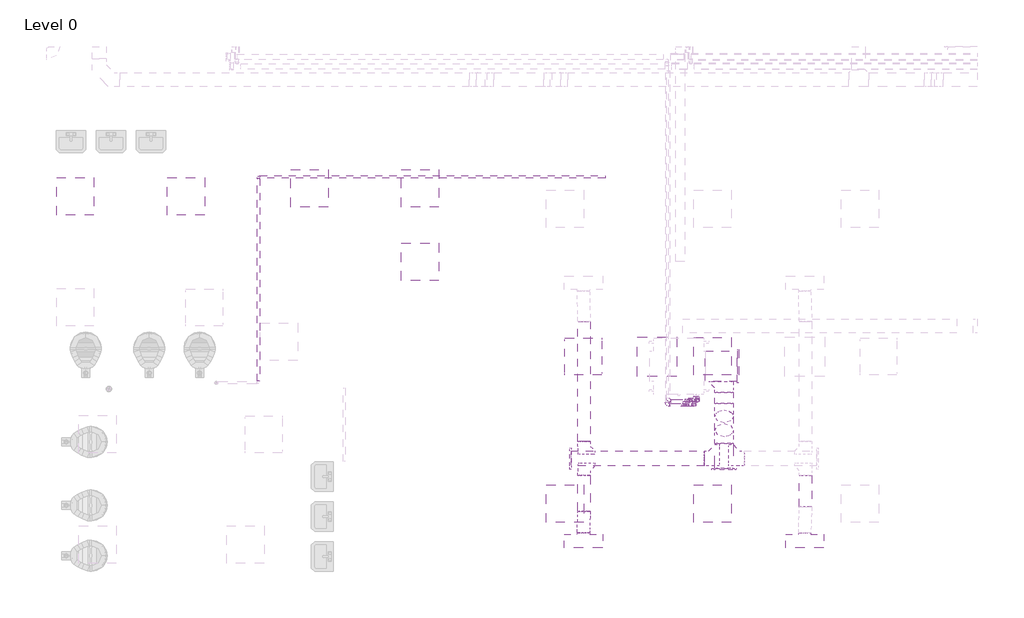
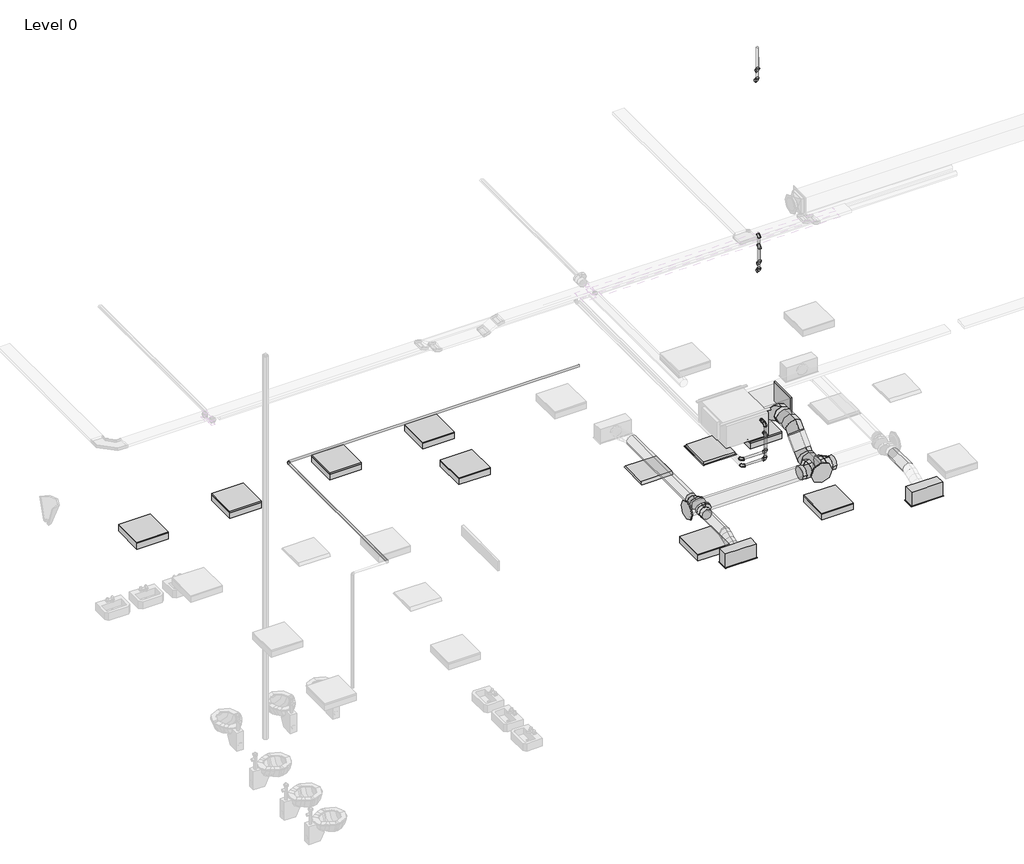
# One storey, part 2 of 34: 15 pipe fittings, 12 pipe segments, 10 duct fittings, 9 duct segments, 9 light fixtures, 3 air terminals.
"""IFC4 building model written with IfcOpenShell, lengths in millimetres."""

from ifc_helpers import new_model, si_unit, point, frame, frame_2d, origin, place, context, project, spatial, polyline, circle_curve, ellipse_curve, trimmed, segment, composite_curve, outline, extrude, transform, mapped, element, save
from ifc_brep_helpers import plane_surface, cylinder_surface, advanced_brep
from components import return_grille_rectangular_hosted_standard_7b12617c, supply_diffuser_with_plenum_linear_slot_hosted_8c379eed, dw144_rectangular_blank_end_standard_8fde7d16, dw144_round_blank_end_standard_f82b0856, dw144_round_blank_end_standard_9aa061e7, dw144_round_segmented_bend_slip_joint_standard_8b80c5ae, dw144_round_shoe_branch_slip_joint1_standard_2_15a2edd8, dw144_round_shoe_branch_slip_joint1_standard_2_7ba9e4ed, dw144_round_shoe_branch_slip_joint1_standard_2_67b64720, light_fixture_b730b5ca, troffer_light_2x2_parabolic_2_x2_2_lamp_120v_6a063ff3, elbow_generic_standard_371413ad, elbow_threaded_gmi_standard_b4aa7741, socket_reducing_threaded_gmi_standard_0a4076b8

model = new_model("IFC4")

# Units and contexts
model_context = context("Model", 3, world=origin())
ifc_project = project(units=[si_unit("LENGTHUNIT", "METRE", prefix="MILLI")], contexts=[model_context])

# Site, building, storey
site = spatial("IfcSite", under=ifc_project)
building = spatial("IfcBuilding", under=site)
storey = spatial("IfcBuildingStorey", under=building, Name="Level 0", Elevation=0.0)

# Air terminals
placement = place(None, origin())
return_grille_rectangular_hosted_standard_shape = return_grille_rectangular_hosted_standard_7b12617c(model_context)
element("IfcAirTerminal", 1, ObjectType="Return Grille - Rectangular - Hosted : Standard", at=placement, inside=storey, context=model_context, shape_type="MappedRepresentation", body=[
    mapped(return_grille_rectangular_hosted_standard_shape, transform((10362.2000027, 3963.2000004, 2800.0), x_axis=(1.0, 0.0, 0.0), y_axis=(0.0, -1.0, 0.0), z_axis=(0.0, 0.0, -1.0))),
])
supply_diffuser_with_plenum_linear_slot_hosted_shape = supply_diffuser_with_plenum_linear_slot_hosted_8c379eed(model_context)
element("IfcAirTerminal", 2, ObjectType="Supply Diffuser with Plenum - Linear Slot - Hosted : 24\" x 8\"-200 In Inlet  4-Slot", at=placement, inside=storey, context=model_context, shape_type="MappedRepresentation", body=[
    mapped(supply_diffuser_with_plenum_linear_slot_hosted_shape, transform((9162.2000027, 963.2000004, 2800.0), x_axis=(1.0, 0.0, 0.0), y_axis=(0.0, -1.0, 0.0), z_axis=(0.0, 0.0, -1.0))),
])
element("IfcAirTerminal", 3, ObjectType="Supply Diffuser with Plenum - Linear Slot - Hosted : 24\" x 8\"-200 In Inlet  4-Slot", at=placement, inside=storey, context=model_context, shape_type="MappedRepresentation", body=[
    mapped(supply_diffuser_with_plenum_linear_slot_hosted_shape, transform((12762.2000027, 963.2000004, 2800.0), x_axis=(1.0, 0.0, 0.0), y_axis=(0.0, -1.0, 0.0), z_axis=(0.0, 0.0, -1.0))),
])

# Duct fittings
dw144_rectangular_blank_end_standard_shape = dw144_rectangular_blank_end_standard_8fde7d16(model_context)
element("IfcDuctFitting", 4, ObjectType="DW144 Rectangular Blank End : Standard", at=placement, inside=storey, context=model_context, shape_type="MappedRepresentation", body=[
    mapped(dw144_rectangular_blank_end_standard_shape, transform((11666.2561025, 3806.0000004, 3476.3911538), x_axis=(1.0, 0.0, 0.0), y_axis=(0.0, 1.0, 0.0), z_axis=(0.0, 0.0, 1.0))),
])
dw144_round_blank_end_standard_shape = dw144_round_blank_end_standard_f82b0856(model_context)
element("IfcDuctFitting", 5, ObjectType="DW144 Round Blank End : Standard", at=placement, inside=storey, context=model_context, shape_type="MappedRepresentation", body=[
    mapped(dw144_round_blank_end_standard_shape, transform((11451.4561025, 2142.9916128, 3072.2088531), x_axis=(0.0, -1.0, 0.0), y_axis=(1.0, 0.0, 0.0), z_axis=(0.0, 0.0, 1.0))),
])
dw144_round_blank_end_standard_2_shape = dw144_round_blank_end_standard_9aa061e7(model_context)
element("IfcDuctFitting", 6, ObjectType="DW144 Round Blank End : Standard", at=placement, inside=storey, context=model_context, shape_type="MappedRepresentation", body=[
    mapped(dw144_round_blank_end_standard_2_shape, transform((8961.4561025, 2306.5018192, 3072.2088531), x_axis=(-1.0, 0.0, 0.0), y_axis=(0.0, -1.0, 0.0), z_axis=(0.0, 0.0, 1.0))),
])
dw144_round_segmented_bend_slip_joint_standard_shape = dw144_round_segmented_bend_slip_joint_standard_8b80c5ae(model_context)
element("IfcDuctFitting", 7, ObjectType="DW144 Round Segmented Bend - Slip Joint : Standard", at=placement, inside=storey, context=model_context, shape_type="MappedRepresentation", body=[
    mapped(dw144_round_segmented_bend_slip_joint_standard_shape, transform((11451.4561025, 2678.6338536, 3072.2088531), x_axis=(0.0, -0.7071067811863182, -0.7071067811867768), y_axis=(0.0, 0.7071067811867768, -0.7071067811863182), z_axis=(1.0, 0.0, 0.0))),
])
element("IfcDuctFitting", 8, ObjectType="DW144 Round Segmented Bend - Slip Joint : Standard", at=placement, inside=storey, context=model_context, shape_type="MappedRepresentation", body=[
    mapped(dw144_round_segmented_bend_slip_joint_standard_shape, transform((11451.4561025, 3076.0000004, 3469.575), x_axis=(0.0, -1.0, 0.0), y_axis=(0.0, 0.0, 1.0), z_axis=(-1.0, 0.0, 0.0))),
])
dw144_round_shoe_branch_slip_joint1_standard_2_shape = dw144_round_shoe_branch_slip_joint1_standard_2_15a2edd8(model_context)
element("IfcDuctFitting", 9, ObjectType="DW144 Round Shoe Branch - Slip Joint1 : Standard 2", at=placement, inside=storey, context=model_context, shape_type="MappedRepresentation", body=[
    mapped(dw144_round_shoe_branch_slip_joint1_standard_2_shape, transform((9173.9000022, 2181.5018192, 3072.2088531), x_axis=(0.0, -1.0, 0.0), y_axis=(-1.0, 0.0, 0.0), z_axis=(0.0, 0.0, -1.0))),
])
element("IfcDuctFitting", 10, ObjectType="DW144 Round Shoe Branch - Slip Joint1 : Standard 2", at=placement, inside=storey, context=model_context, shape_type="MappedRepresentation", body=[
    mapped(dw144_round_shoe_branch_slip_joint1_standard_2_shape, transform((9173.9000022, 2431.5018192, 3072.2088531), x_axis=(0.0, 1.0, 0.0), y_axis=(-1.0, 0.0, 0.0), z_axis=(0.0, 0.0, 1.0))),
])
dw144_round_shoe_branch_slip_joint1_standard_2_2_shape = dw144_round_shoe_branch_slip_joint1_standard_2_7ba9e4ed(model_context)
element("IfcDuctFitting", 11, ObjectType="DW144 Round Shoe Branch - Slip Joint1 : Standard 2", at=placement, inside=storey, context=model_context, shape_type="MappedRepresentation", body=[
    mapped(dw144_round_shoe_branch_slip_joint1_standard_2_2_shape, transform((11451.4561025, 3556.0000004, 3469.575), x_axis=(0.0, -1.0, 0.0), y_axis=(-1.0, 0.0, 0.0), z_axis=(0.0, 0.0, -1.0))),
])
dw144_round_shoe_branch_slip_joint1_standard_2_3_shape = dw144_round_shoe_branch_slip_joint1_standard_2_67b64720(model_context)
element("IfcDuctFitting", 12, ObjectType="DW144 Round Shoe Branch - Slip Joint1 : Standard 2", at=placement, inside=storey, context=model_context, shape_type="MappedRepresentation", body=[
    mapped(dw144_round_shoe_branch_slip_joint1_standard_2_3_shape, transform((11601.4561025, 2306.5018192, 3072.2088531), x_axis=(1.0, 0.0, 0.0), y_axis=(0.0, -1.0, 0.0), z_axis=(0.0, 0.0, -1.0))),
])
element("IfcDuctFitting", 13, ObjectType="DW144 Round Shoe Branch - Slip Joint1 : Standard 2", at=placement, inside=storey, context=model_context, shape_type="MappedRepresentation", body=[
    mapped(dw144_round_shoe_branch_slip_joint1_standard_2_3_shape, transform((11301.4561025, 2306.5018192, 3072.2088531), x_axis=(-1.0, 0.0, 0.0), y_axis=(0.0, -1.0, 0.0), z_axis=(0.0, 0.0, 1.0))),
])

# Duct segments
element("IfcDuctSegment", 14, ObjectType="DW144 Flanged Med Radius Bend / Shoe Branch", at=placement, inside=storey, context=model_context, shape_type="SweptSolid", body=[
    extrude(outline(polyline([(11146.6561025, 3556.0000004), (11146.6561025, 4056.0000004), (11666.2561025, 4056.0000004), (11666.2561025, 3556.0000004), (11146.6561025, 3556.0000004)])), frame((0.0, 0.0, 3301.3911538), z_axis=(0.0, 0.0, 1.0), x_axis=(1.0, 0.0, 0.0)), (0.0, 0.0, 1.0), 350.0),
])
element("IfcDuctSegment", 15, ObjectType="DW144 Segmented Bend / Shoe Branch", at=placement, inside=storey, context=model_context, shape_type="SweptSolid", body=[
    extrude(outline(composite_curve([segment(trimmed(circle_curve(frame_2d((3469.575, 11451.4561025)), 150.0), [point((3469.575, 11301.4561025))], [point((3319.575, 11451.4561025))], False, "CARTESIAN"), True, "CONTINUOUS"), segment(trimmed(circle_curve(frame_2d((3469.575, 11451.4561025)), 150.0), [point((3319.575, 11451.4561025))], [point((3469.575, 11601.4561025))], False, "CARTESIAN"), True, "CONTINUOUS"), segment(trimmed(circle_curve(frame_2d((3469.575, 11451.4561025)), 150.0), [point((3469.575, 11601.4561025))], [point((3619.575, 11451.4561025))], False, "CARTESIAN"), True, "CONTINUOUS"), segment(trimmed(circle_curve(frame_2d((3469.575, 11451.4561025)), 150.0), [point((3619.575, 11451.4561025))], [point((3469.575, 11301.4561025))], False, "CARTESIAN"), True, "CONTINUOUS")], self_intersect=False)), frame((0.0, 3200.2640691, 0.0), z_axis=(0.0, 1.0, 0.0), x_axis=(0.0, 0.0, 1.0)), (0.0, 0.0, 1.0), 180.7359313),
])
element("IfcDuctSegment", 16, ObjectType="DW144 Segmented Bend / Shoe Branch", at=placement, inside=storey, context=model_context, shape_type="SweptSolid", body=[
    extrude(outline(composite_curve([segment(trimmed(circle_curve(frame_2d((3072.2088531, 11451.4561025)), 150.0), [point((3072.2088531, 11301.4561025))], [point((2922.2088531, 11451.4561025))], False, "CARTESIAN"), True, "CONTINUOUS"), segment(trimmed(circle_curve(frame_2d((3072.2088531, 11451.4561025)), 150.0), [point((2922.2088531, 11451.4561025))], [point((3072.2088531, 11601.4561025))], False, "CARTESIAN"), True, "CONTINUOUS"), segment(trimmed(circle_curve(frame_2d((3072.2088531, 11451.4561025)), 150.0), [point((3072.2088531, 11601.4561025))], [point((3222.2088531, 11451.4561025))], False, "CARTESIAN"), True, "CONTINUOUS"), segment(trimmed(circle_curve(frame_2d((3072.2088531, 11451.4561025)), 150.0), [point((3222.2088531, 11451.4561025))], [point((3072.2088531, 11301.4561025))], False, "CARTESIAN"), True, "CONTINUOUS")], self_intersect=False)), frame((0.0, 2142.9916128, 0.0), z_axis=(0.0, 1.0, 0.0), x_axis=(0.0, 0.0, 1.0)), (0.0, 0.0, 1.0), 411.3781721),
])
element("IfcDuctSegment", 17, ObjectType="DW144 Segmented Bend / Shoe Branch", at=placement, inside=storey, context=model_context, shape_type="SweptSolid", body=[
    extrude(outline(composite_curve([segment(trimmed(circle_curve(frame_2d((0.0, -150.0)), 150.0), [point((-150.0, -150.0))], [point((0.0, 0.0))], False, "CARTESIAN"), True, "CONTINUOUS"), segment(trimmed(circle_curve(frame_2d((0.0, -150.0)), 150.0), [point((0.0, 0.0))], [point((150.0, -150.0))], False, "CARTESIAN"), True, "CONTINUOUS"), segment(trimmed(circle_curve(frame_2d((0.0, -150.0)), 150.0), [point((150.0, -150.0))], [point((0.0, -300.0))], False, "CARTESIAN"), True, "CONTINUOUS"), segment(trimmed(circle_curve(frame_2d((0.0, -150.0)), 150.0), [point((0.0, -300.0))], [point((-150.0, -150.0))], False, "CARTESIAN"), True, "CONTINUOUS")], self_intersect=False)), frame((11451.4561025, 2872.5678364, 3054.0108016), z_axis=(0.0, 0.7071067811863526, 0.7071067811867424), x_axis=(1.0, 0.0, 0.0)), (0.0, 0.0, 1.0), 313.4324567),
])
element("IfcDuctSegment", 18, ObjectType="DW144 Segmented Bend / Shoe Branch", at=placement, inside=storey, context=model_context, shape_type="SweptSolid", body=[
    extrude(outline(composite_curve([segment(trimmed(circle_curve(frame_2d((2306.5018192, 3072.2088531)), 125.0), [point((2431.5018192, 3072.2088531))], [point((2306.5018192, 2947.2088531))], False, "CARTESIAN"), True, "CONTINUOUS"), segment(trimmed(circle_curve(frame_2d((2306.5018192, 3072.2088531)), 125.0), [point((2306.5018192, 2947.2088531))], [point((2181.5018192, 3072.2088531))], False, "CARTESIAN"), True, "CONTINUOUS"), segment(trimmed(circle_curve(frame_2d((2306.5018192, 3072.2088531)), 125.0), [point((2181.5018192, 3072.2088531))], [point((2306.5018192, 3197.2088531))], False, "CARTESIAN"), True, "CONTINUOUS"), segment(trimmed(circle_curve(frame_2d((2306.5018192, 3072.2088531)), 125.0), [point((2306.5018192, 3197.2088531))], [point((2431.5018192, 3072.2088531))], False, "CARTESIAN"), True, "CONTINUOUS")], self_intersect=False)), frame((8961.4561025, 0.0, 0.0), z_axis=(1.0, 0.0, 0.0), x_axis=(0.0, 1.0, 0.0)), (0.0, 0.0, 1.0), 2165.0),
])
element("IfcDuctSegment", 19, ObjectType="DW144 Segmented Bend / Shoe Branch", at=placement, inside=storey, context=model_context, shape_type="SweptSolid", body=[
    extrude(outline(composite_curve([segment(trimmed(circle_curve(frame_2d((3072.2088531, 12773.9000022)), 100.0), [point((3072.2088531, 12673.9000022))], [point((2972.2088531, 12773.9000022))], False, "CARTESIAN"), True, "CONTINUOUS"), segment(trimmed(circle_curve(frame_2d((3072.2088531, 12773.9000022)), 100.0), [point((2972.2088531, 12773.9000022))], [point((3072.2088531, 12873.9000022))], False, "CARTESIAN"), True, "CONTINUOUS"), segment(trimmed(circle_curve(frame_2d((3072.2088531, 12773.9000022)), 100.0), [point((3072.2088531, 12873.9000022))], [point((3172.2088531, 12773.9000022))], False, "CARTESIAN"), True, "CONTINUOUS"), segment(trimmed(circle_curve(frame_2d((3072.2088531, 12773.9000022)), 100.0), [point((3172.2088531, 12773.9000022))], [point((3072.2088531, 12673.9000022))], False, "CARTESIAN"), True, "CONTINUOUS")], self_intersect=False)), frame((0.0, 1521.5018192, 0.0), z_axis=(0.0, 1.0, 0.0), x_axis=(0.0, 0.0, 1.0)), (0.0, 0.0, 1.0), 510.0),
])
element("IfcDuctSegment", 20, ObjectType="DW144 Segmented Bend / Shoe Branch", at=placement, inside=storey, context=model_context, shape_type="SweptSolid", body=[
    extrude(outline(composite_curve([segment(trimmed(circle_curve(frame_2d((3072.2088531, 9173.9000022)), 100.0), [point((3072.2088531, 9273.9000022))], [point((3172.2088531, 9173.9000022))], False, "CARTESIAN"), True, "CONTINUOUS"), segment(trimmed(circle_curve(frame_2d((3072.2088531, 9173.9000022)), 100.0), [point((3172.2088531, 9173.9000022))], [point((3072.2088531, 9073.9000022))], False, "CARTESIAN"), True, "CONTINUOUS"), segment(trimmed(circle_curve(frame_2d((3072.2088531, 9173.9000022)), 100.0), [point((3072.2088531, 9073.9000022))], [point((2972.2088531, 9173.9000022))], False, "CARTESIAN"), True, "CONTINUOUS"), segment(trimmed(circle_curve(frame_2d((3072.2088531, 9173.9000022)), 100.0), [point((2972.2088531, 9173.9000022))], [point((3072.2088531, 9273.9000022))], False, "CARTESIAN"), True, "CONTINUOUS")], self_intersect=False)), frame((0.0, 1441.5018192, 0.0), z_axis=(0.0, 1.0, 0.0), x_axis=(0.0, 0.0, 1.0)), (0.0, 0.0, 1.0), 590.0),
])
element("IfcDuctSegment", 21, ObjectType="DW144 Segmented Bend / Shoe Branch", at=placement, inside=storey, context=model_context, shape_type="SweptSolid", body=[
    extrude(outline(composite_curve([segment(trimmed(circle_curve(frame_2d((3072.2088531, 9173.9000022)), 100.0), [point((3072.2088531, 9273.9000022))], [point((3172.2088531, 9173.9000022))], False, "CARTESIAN"), True, "CONTINUOUS"), segment(trimmed(circle_curve(frame_2d((3072.2088531, 9173.9000022)), 100.0), [point((3172.2088531, 9173.9000022))], [point((3072.2088531, 9073.9000022))], False, "CARTESIAN"), True, "CONTINUOUS"), segment(trimmed(circle_curve(frame_2d((3072.2088531, 9173.9000022)), 100.0), [point((3072.2088531, 9073.9000022))], [point((2972.2088531, 9173.9000022))], False, "CARTESIAN"), True, "CONTINUOUS"), segment(trimmed(circle_curve(frame_2d((3072.2088531, 9173.9000022)), 100.0), [point((2972.2088531, 9173.9000022))], [point((3072.2088531, 9273.9000022))], False, "CARTESIAN"), True, "CONTINUOUS")], self_intersect=False)), frame((0.0, 2581.5018192, 0.0), z_axis=(0.0, 1.0, 0.0), x_axis=(0.0, 0.0, 1.0)), (0.0, 0.0, 1.0), 1950.0),
])
element("IfcDuctSegment", 22, ObjectType="Flex - Round", at=placement, inside=storey, context=model_context, shape_type="AdvancedBrep", body=[
    advanced_brep(
    [(9273.9000022, 1441.5018192, 3072.2088531), (9173.9000022, 1441.5018192, 2972.2088531), (9073.9000022, 1441.5018192, 3072.2088531), (9173.9000022, 1441.5018192, 3172.2088531), (9273.9000022, 1419.9886644, 3072.2088531), (9173.9000022, 1434.4041273, 2972.2088531), (9073.9000022, 1422.5932881, 3072.2088531), (9173.9000022, 1408.1778252, 3172.2088531), (9262.2000027, 1092.1000004, 2954.4), (9162.2000027, 1092.1000004, 3054.4), (9062.2000027, 1092.1000004, 2954.4), (9162.2000027, 1092.1000004, 2854.4), (9272.0154345, 1348.8904029, 3053.2328893), (9172.6402079, 1386.8764181, 2959.5238159), (9072.1283201, 1355.7538157, 3054.3695504), (9171.5035467, 1317.7678004, 3148.0786237), (9267.9552415, 1262.5544078, 3012.3502664), (9169.0041626, 1309.5595036, 2922.9119919), (9068.1447633, 1271.0474118, 3014.2585867), (9167.0958423, 1224.0423161, 3103.6968612), (9263.9716847, 1177.8480039, 2972.2393027), (9164.5964582, 1215.8340192, 2878.5302294), (9064.0845704, 1184.7114168, 2973.3759639), (9163.459797, 1146.7254015, 3067.0850372), (9262.2000027, 1111.0085316, 2954.4), (9162.2000027, 1125.4239944, 2854.4), (9062.2000027, 1113.6131552, 2954.4), (9162.2000027, 1099.1976924, 3054.4)],
    [
        (0, 1, circle_curve(frame((9173.9000022, 1441.5018192, 3072.2088531), z_axis=(0.0, 1.0, 0.0), x_axis=(1.0, 0.0, 0.0)), 100.0)),
        (1, 2, circle_curve(frame((9173.9000022, 1441.5018192, 3072.2088531), z_axis=(0.0, 1.0, 0.0), x_axis=(1.0, 0.0, 0.0)), 100.0)),
        (2, 3, circle_curve(frame((9173.9000022, 1441.5018192, 3072.2088531), z_axis=(0.0, 1.0, 0.0), x_axis=(1.0, 0.0, 0.0)), 100.0)),
        (3, 0, circle_curve(frame((9173.9000022, 1441.5018192, 3072.2088531), z_axis=(0.0, 1.0, 0.0), x_axis=(1.0, 0.0, 0.0)), 100.0)),
        (0, 4),
        (4, 5, ellipse_curve(frame((9173.9000022, 1421.2909763, 3072.2088531), z_axis=(0.012911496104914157, 0.9914289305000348, 0.13000757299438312), x_axis=(-0.0979801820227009, 0.13064714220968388, -0.9865754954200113)), 100.8645168, 100.0)),
        (5, 1),
        (5, 6, ellipse_curve(frame((9173.9000022, 1421.2909763, 3072.2088531), z_axis=(0.012911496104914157, 0.9914289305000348, 0.13000757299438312), x_axis=(-0.0979801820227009, 0.13064714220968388, -0.9865754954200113)), 100.8645168, 100.0)),
        (6, 2),
        (6, 7, ellipse_curve(frame((9173.9000022, 1421.2909763, 3072.2088531), z_axis=(0.012911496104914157, 0.9914289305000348, 0.13000757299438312), x_axis=(-0.0979801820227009, 0.13064714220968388, -0.9865754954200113)), 100.8645168, 100.0)),
        (7, 3),
        (7, 4, ellipse_curve(frame((9173.9000022, 1421.2909763, 3072.2088531), z_axis=(0.012911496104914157, 0.9914289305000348, 0.13000757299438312), x_axis=(-0.0979801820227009, 0.13064714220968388, -0.9865754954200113)), 100.8645168, 100.0)),
        (8, 9, circle_curve(frame((9162.2000027, 1092.1000004, 2954.4), z_axis=(0.0, -1.0, 0.0), x_axis=(1.0, 0.0, 0.0)), 100.0)),
        (9, 10, circle_curve(frame((9162.2000027, 1092.1000004, 2954.4), z_axis=(0.0, -1.0, 0.0), x_axis=(1.0, 0.0, 0.0)), 100.0)),
        (10, 11, circle_curve(frame((9162.2000027, 1092.1000004, 2954.4), z_axis=(0.0, -1.0, 0.0), x_axis=(1.0, 0.0, 0.0)), 100.0)),
        (11, 8, circle_curve(frame((9162.2000027, 1092.1000004, 2954.4), z_axis=(0.0, -1.0, 0.0), x_axis=(1.0, 0.0, 0.0)), 100.0)),
        (4, 12),
        (12, 13, ellipse_curve(frame((9172.0718773, 1352.3221093, 3053.8012198), z_axis=(0.03417490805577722, 0.9383065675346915, 0.34411169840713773), x_axis=(-0.0927302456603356, 0.3458045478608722, -0.9337131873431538)), 100.4159667, 100.0)),
        (13, 5),
        (13, 14, ellipse_curve(frame((9172.0718773, 1352.3221093, 3053.8012198), z_axis=(0.03417490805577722, 0.9383065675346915, 0.34411169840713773), x_axis=(-0.0927302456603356, 0.3458045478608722, -0.9337131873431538)), 100.4159667, 100.0)),
        (14, 6),
        (14, 15, ellipse_curve(frame((9172.0718773, 1352.3221093, 3053.8012198), z_axis=(0.03417490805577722, 0.9383065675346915, 0.34411169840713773), x_axis=(-0.0927302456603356, 0.3458045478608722, -0.9337131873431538)), 100.4159667, 100.0)),
        (15, 7),
        (15, 12, ellipse_curve(frame((9172.0718773, 1352.3221093, 3053.8012198), z_axis=(0.03417490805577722, 0.9383065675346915, 0.34411169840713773), x_axis=(-0.0927302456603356, 0.3458045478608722, -0.9337131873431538)), 100.4159667, 100.0)),
        (12, 16),
        (16, 17, circle_curve(frame((9168.0500024, 1266.8009098, 3013.3044266), z_axis=(0.04246501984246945, 0.9029767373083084, 0.4275859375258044), x_axis=(0.9990523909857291, -0.04246501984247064, -0.009541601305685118)), 100.0)),
        (17, 13),
        (17, 18, circle_curve(frame((9168.0500024, 1266.8009098, 3013.3044266), z_axis=(0.04246501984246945, 0.9029767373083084, 0.4275859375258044), x_axis=(0.9990523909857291, -0.04246501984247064, -0.009541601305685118)), 100.0)),
        (18, 14),
        (18, 19, circle_curve(frame((9168.0500024, 1266.8009098, 3013.3044266), z_axis=(0.04246501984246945, 0.9029767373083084, 0.4275859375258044), x_axis=(0.9990523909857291, -0.04246501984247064, -0.009541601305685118)), 100.0)),
        (19, 15),
        (19, 16, circle_curve(frame((9168.0500024, 1266.8009098, 3013.3044266), z_axis=(0.04246501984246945, 0.9029767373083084, 0.4275859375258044), x_axis=(0.9990523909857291, -0.04246501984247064, -0.009541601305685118)), 100.0)),
        (16, 20),
        (20, 21, ellipse_curve(frame((9164.0281276, 1181.2797104, 2972.8076333), z_axis=(0.034174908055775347, 0.9383065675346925, 0.3441116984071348), x_axis=(0.09273024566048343, -0.34580454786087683, 0.9337131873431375)), 100.4159667, 100.0)),
        (21, 17),
        (21, 22, ellipse_curve(frame((9164.0281276, 1181.2797104, 2972.8076333), z_axis=(0.034174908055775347, 0.9383065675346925, 0.3441116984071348), x_axis=(0.09273024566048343, -0.34580454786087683, 0.9337131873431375)), 100.4159667, 100.0)),
        (22, 18),
        (22, 23, ellipse_curve(frame((9164.0281276, 1181.2797104, 2972.8076333), z_axis=(0.034174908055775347, 0.9383065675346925, 0.3441116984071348), x_axis=(0.09273024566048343, -0.34580454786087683, 0.9337131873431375)), 100.4159667, 100.0)),
        (23, 19),
        (23, 20, ellipse_curve(frame((9164.0281276, 1181.2797104, 2972.8076333), z_axis=(0.034174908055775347, 0.9383065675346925, 0.3441116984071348), x_axis=(0.09273024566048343, -0.34580454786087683, 0.9337131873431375)), 100.4159667, 100.0)),
        (20, 24),
        (24, 25, ellipse_curve(frame((9162.2000027, 1112.3108434, 2954.4), z_axis=(0.012911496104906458, 0.9914289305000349, 0.1300075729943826), x_axis=(0.09798018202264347, -0.13064714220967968, 0.9865754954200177)), 100.8645168, 100.0)),
        (25, 21),
        (25, 26, ellipse_curve(frame((9162.2000027, 1112.3108434, 2954.4), z_axis=(0.012911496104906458, 0.9914289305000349, 0.1300075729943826), x_axis=(0.09798018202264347, -0.13064714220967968, 0.9865754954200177)), 100.8645168, 100.0)),
        (26, 22),
        (26, 27, ellipse_curve(frame((9162.2000027, 1112.3108434, 2954.4), z_axis=(0.012911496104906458, 0.9914289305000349, 0.1300075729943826), x_axis=(0.09798018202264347, -0.13064714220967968, 0.9865754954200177)), 100.8645168, 100.0)),
        (27, 23),
        (27, 24, ellipse_curve(frame((9162.2000027, 1112.3108434, 2954.4), z_axis=(0.012911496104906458, 0.9914289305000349, 0.1300075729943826), x_axis=(0.09798018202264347, -0.13064714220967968, 0.9865754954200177)), 100.8645168, 100.0)),
        (24, 8),
        (11, 25),
        (10, 26),
        (9, 27),
    ],
    [
        plane_surface(frame((9073.9000022, 1441.5018192, 3072.2088531), z_axis=(0.0, 1.0, 0.0), x_axis=(0.0, 0.0, -1.0))),
        cylinder_surface(frame((9173.9000022, 1441.5018192, 3072.2088531), z_axis=(0.0, 1.0, 0.0), x_axis=(1.0, 0.0, 0.0)), 100.0),
        plane_surface(frame((9062.2000027, 1092.1000004, 2954.4), z_axis=(0.0, -1.0, 0.0), x_axis=(0.0, 0.0, -1.0))),
        cylinder_surface(frame((9173.9000022, 1421.2909763, 3072.2088531), z_axis=(0.02560166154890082, 0.965862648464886, 0.25778653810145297), x_axis=(0.9996665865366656, -0.02560166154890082, -0.003357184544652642)), 100.0),
        cylinder_surface(frame((9172.0718773, 1352.3221093, 3053.8012198), z_axis=(0.04246501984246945, 0.9029767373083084, 0.4275859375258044), x_axis=(0.9990523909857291, -0.04246501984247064, -0.009541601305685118)), 100.0),
        cylinder_surface(frame((9168.0500024, 1266.8009098, 3013.3044266), z_axis=(0.04246501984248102, 0.90297673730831, 0.4275859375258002), x_axis=(0.9990523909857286, -0.042465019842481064, -0.00954160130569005)), 100.0),
        cylinder_surface(frame((9164.0281276, 1181.2797104, 2972.8076333), z_axis=(0.02560166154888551, 0.9658626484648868, 0.2577865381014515), x_axis=(0.999666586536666, -0.025601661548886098, -0.0033571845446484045)), 100.0),
        cylinder_surface(frame((9162.2000027, 1112.3108434, 2954.4), z_axis=(0.0, 1.0, 0.0), x_axis=(1.0, 0.0, 0.0)), 100.0),
    ],
    [
        (0, [[1, 2, 3, 4]]),
        (1, [[-1, 5, 6, 7]]),
        (1, [[-2, -7, 8, 9]]),
        (1, [[-3, -9, 10, 11]]),
        (1, [[-4, -11, 12, -5]]),
        (2, [[13, 14, 15, 16]]),
        (3, [[-6, 17, 18, 19]]),
        (3, [[-8, -19, 20, 21]]),
        (3, [[-10, -21, 22, 23]]),
        (3, [[-12, -23, 24, -17]]),
        (4, [[-18, 25, 26, 27]]),
        (4, [[-20, -27, 28, 29]]),
        (4, [[-22, -29, 30, 31]]),
        (4, [[-24, -31, 32, -25]]),
        (5, [[-26, 33, 34, 35]]),
        (5, [[-28, -35, 36, 37]]),
        (5, [[-30, -37, 38, 39]]),
        (5, [[-32, -39, 40, -33]]),
        (6, [[-34, 41, 42, 43]]),
        (6, [[-36, -43, 44, 45]]),
        (6, [[-38, -45, 46, 47]]),
        (6, [[-40, -47, 48, -41]]),
        (7, [[-42, 49, -16, 50]]),
        (7, [[-44, -50, -15, 51]]),
        (7, [[-46, -51, -14, 52]]),
        (7, [[-48, -52, -13, -49]]),
    ],
),
])

# Light fixtures
light_fixture_shape = light_fixture_b730b5ca(model_context)
element("IfcLightFixture", 23, ObjectType="ELEKTRA EM Recessed Lighting Fixture : 24\" x 24\" - 230", at=placement, inside=storey, context=model_context, shape_type="MappedRepresentation", body=[
    mapped(light_fixture_shape, transform((8862.2000027, 3663.2000004, 2800.0), x_axis=(1.0, 0.0, 0.0), y_axis=(0.0, -1.0, 0.0), z_axis=(0.0, 0.0, -1.0))),
])
troffer_light_2x2_parabolic_2_x2_2_lamp_120v_shape = troffer_light_2x2_parabolic_2_x2_2_lamp_120v_6a063ff3(model_context)
element("IfcLightFixture", 24, ObjectType="Troffer Light - 2x2 Parabolic : 2'x2'(2 Lamp) - 120V", at=placement, inside=storey, context=model_context, shape_type="MappedRepresentation", body=[
    mapped(troffer_light_2x2_parabolic_2_x2_2_lamp_120v_shape, transform((8862.2000027, 1263.2000004, 2800.0), x_axis=(1.0, 0.0, 0.0), y_axis=(0.0, -1.0, 0.0), z_axis=(0.0, 0.0, -1.0))),
])
element("IfcLightFixture", 25, ObjectType="Troffer Light - 2x2 Parabolic : 2'x2'(2 Lamp) - 120V", at=placement, inside=storey, context=model_context, shape_type="MappedRepresentation", body=[
    mapped(troffer_light_2x2_parabolic_2_x2_2_lamp_120v_shape, transform((11262.2000027, 1263.2000004, 2800.0), x_axis=(1.0, 0.0, 0.0), y_axis=(0.0, -1.0, 0.0), z_axis=(0.0, 0.0, -1.0))),
])
element("IfcLightFixture", 26, ObjectType="Troffer Light - 2x2 Parabolic : 2'x2'(2 Lamp) - 120V", at=placement, inside=storey, context=model_context, shape_type="MappedRepresentation", body=[
    mapped(troffer_light_2x2_parabolic_2_x2_2_lamp_120v_shape, transform((11262.2000027, 3663.2000004, 2800.0), x_axis=(1.0, 0.0, 0.0), y_axis=(0.0, -1.0, 0.0), z_axis=(0.0, 0.0, -1.0))),
])
element("IfcLightFixture", 27, ObjectType="Troffer Light - 2x2 Parabolic : 2'x2'(2 Lamp) - 120V", at=placement, inside=storey, context=model_context, shape_type="MappedRepresentation", body=[
    mapped(troffer_light_2x2_parabolic_2_x2_2_lamp_120v_shape, transform((6508.9500027, 6400.6000005, 2800.0), x_axis=(1.0, 0.0, 0.0), y_axis=(0.0, -1.0, 0.0), z_axis=(0.0, 0.0, -1.0))),
])
element("IfcLightFixture", 28, ObjectType="Troffer Light - 2x2 Parabolic : 2'x2'(2 Lamp) - 120V", at=placement, inside=storey, context=model_context, shape_type="MappedRepresentation", body=[
    mapped(troffer_light_2x2_parabolic_2_x2_2_lamp_120v_shape, transform((4708.9500027, 6400.6000005, 2800.0), x_axis=(1.0, 0.0, 0.0), y_axis=(0.0, -1.0, 0.0), z_axis=(0.0, 0.0, -1.0))),
])
element("IfcLightFixture", 29, ObjectType="Troffer Light - 2x2 Parabolic : 2'x2'(2 Lamp) - 120V", at=placement, inside=storey, context=model_context, shape_type="MappedRepresentation", body=[
    mapped(troffer_light_2x2_parabolic_2_x2_2_lamp_120v_shape, transform((6508.9500027, 5200.6000005, 2800.0), x_axis=(1.0, 0.0, 0.0), y_axis=(0.0, -1.0, 0.0), z_axis=(0.0, 0.0, -1.0))),
])
element("IfcLightFixture", 30, ObjectType="Troffer Light - 2x2 Parabolic : 2'x2'(2 Lamp) - 120V", at=placement, inside=storey, context=model_context, shape_type="MappedRepresentation", body=[
    mapped(troffer_light_2x2_parabolic_2_x2_2_lamp_120v_shape, transform((899.8500022, 6263.6000007, 2800.0), x_axis=(1.0, 0.0, 0.0), y_axis=(0.0, -1.0, 0.0), z_axis=(0.0, 0.0, -1.0))),
])
element("IfcLightFixture", 31, ObjectType="Troffer Light - 2x2 Parabolic : 2'x2'(2 Lamp) - 120V", at=placement, inside=storey, context=model_context, shape_type="MappedRepresentation", body=[
    mapped(troffer_light_2x2_parabolic_2_x2_2_lamp_120v_shape, transform((2699.8500022, 6263.6000007, 2800.0), x_axis=(1.0, 0.0, 0.0), y_axis=(0.0, -1.0, 0.0), z_axis=(0.0, 0.0, -1.0))),
])

# Pipe fittings
elbow_generic_standard_shape = elbow_generic_standard_371413ad(model_context)
element("IfcPipeFitting", 32, ObjectType="Elbow - Generic : Standard", at=placement, inside=storey, context=model_context, shape_type="MappedRepresentation", body=[
    mapped(elbow_generic_standard_shape, transform((3876.5875007, 6890.4000005, 3048.0), x_axis=(-1.0, 0.0, 0.0), y_axis=(0.0, -1.0, 0.0), z_axis=(0.0, 0.0, 1.0))),
])
elbow_threaded_gmi_standard_shape = elbow_threaded_gmi_standard_b4aa7741(model_context)
element("IfcPipeFitting", 33, ObjectType="Elbow - Threaded - GMI : Standard", at=placement, inside=storey, context=model_context, shape_type="MappedRepresentation", body=[
    mapped(elbow_threaded_gmi_standard_shape, transform((10815.2441119, 3177.232951, 10693.9343179), x_axis=(0.0, 0.0, -1.0), y_axis=(-1.0, 0.0, 0.0), z_axis=(0.0, 1.0, 0.0))),
])
element("IfcPipeFitting", 34, ObjectType="Elbow - Threaded - GMI : Standard", at=placement, inside=storey, context=model_context, shape_type="MappedRepresentation", body=[
    mapped(elbow_threaded_gmi_standard_shape, transform((10866.0441119, 3246.7427522, 10834.6193977), x_axis=(0.0, 0.0, -1.0), y_axis=(-1.0, 0.0, 0.0), z_axis=(0.0, 1.0, 0.0))),
])
element("IfcPipeFitting", 35, ObjectType="Elbow - Threaded - GMI : Standard", at=placement, inside=storey, context=model_context, shape_type="MappedRepresentation", body=[
    mapped(elbow_threaded_gmi_standard_shape, transform((10848.8561025, 3177.232951, 6793.9343179), x_axis=(0.0, 0.0, -1.0), y_axis=(-1.0, 0.0, 0.0), z_axis=(0.0, 1.0, 0.0))),
])
element("IfcPipeFitting", 36, ObjectType="Elbow - Threaded - GMI : Standard", at=placement, inside=storey, context=model_context, shape_type="MappedRepresentation", body=[
    mapped(elbow_threaded_gmi_standard_shape, transform((10899.6561025, 3246.7427522, 6880.0), x_axis=(0.0, 0.0, -1.0), y_axis=(-1.0, 0.0, 0.0), z_axis=(0.0, 1.0, 0.0))),
])
element("IfcPipeFitting", 37, ObjectType="Elbow - Threaded - GMI : Standard", at=placement, inside=storey, context=model_context, shape_type="MappedRepresentation", body=[
    mapped(elbow_threaded_gmi_standard_shape, transform((10848.8561025, 3177.232951, 7503.3911538), x_axis=(0.0, 0.0, 1.0), y_axis=(0.0, 1.0, 0.0), z_axis=(-1.0, 0.0, 0.0))),
])
element("IfcPipeFitting", 38, ObjectType="Elbow - Threaded - GMI : Standard", at=placement, inside=storey, context=model_context, shape_type="MappedRepresentation", body=[
    mapped(elbow_threaded_gmi_standard_shape, transform((10899.6561025, 3246.7427522, 7223.9911538), x_axis=(0.0, 0.0, 1.0), y_axis=(0.0, 1.0, 0.0), z_axis=(-1.0, 0.0, 0.0))),
])
element("IfcPipeFitting", 39, ObjectType="Elbow - Threaded - GMI : Standard", at=placement, inside=storey, context=model_context, shape_type="MappedRepresentation", body=[
    mapped(elbow_threaded_gmi_standard_shape, transform((10968.8561025, 3177.232951, 2893.9343179), x_axis=(0.0, 0.0, -1.0), y_axis=(-1.0, 0.0, 0.0), z_axis=(0.0, 1.0, 0.0))),
])
element("IfcPipeFitting", 40, ObjectType="Elbow - Threaded - GMI : Standard", at=placement, inside=storey, context=model_context, shape_type="MappedRepresentation", body=[
    mapped(elbow_threaded_gmi_standard_shape, transform((10521.3774685, 3177.232951, 2893.9343179), x_axis=(0.0, -1.0, 0.0), y_axis=(1.0, 0.0, 0.0), z_axis=(0.0, 0.0, 1.0))),
])
element("IfcPipeFitting", 41, ObjectType="Elbow - Threaded - GMI : Standard", at=placement, inside=storey, context=model_context, shape_type="MappedRepresentation", body=[
    mapped(elbow_threaded_gmi_standard_shape, transform((11019.6561025, 3246.7427522, 2980.0), x_axis=(0.0, 0.0, -1.0), y_axis=(-1.0, 0.0, 0.0), z_axis=(0.0, 1.0, 0.0))),
])
element("IfcPipeFitting", 42, ObjectType="Elbow - Threaded - GMI : Standard", at=placement, inside=storey, context=model_context, shape_type="MappedRepresentation", body=[
    mapped(elbow_threaded_gmi_standard_shape, transform((10542.0529581, 3246.7427522, 2980.0), x_axis=(0.0, -1.0, 0.0), y_axis=(1.0, 0.0, 0.0), z_axis=(0.0, 0.0, 1.0))),
])
element("IfcPipeFitting", 43, ObjectType="Elbow - Threaded - GMI : Standard", at=placement, inside=storey, context=model_context, shape_type="MappedRepresentation", body=[
    mapped(elbow_threaded_gmi_standard_shape, transform((11019.6561025, 3246.7427522, 3323.9911538), x_axis=(0.0, 0.0, 1.0), y_axis=(0.0, 1.0, 0.0), z_axis=(-1.0, 0.0, 0.0))),
])
element("IfcPipeFitting", 44, ObjectType="Elbow - Threaded - GMI : Standard", at=placement, inside=storey, context=model_context, shape_type="MappedRepresentation", body=[
    mapped(elbow_threaded_gmi_standard_shape, transform((10968.8561025, 3177.232951, 3603.3911538), x_axis=(0.0, 0.0, 1.0), y_axis=(0.0, 1.0, 0.0), z_axis=(-1.0, 0.0, 0.0))),
])
socket_reducing_threaded_gmi_standard_shape = socket_reducing_threaded_gmi_standard_0a4076b8(model_context)
element("IfcPipeFitting", 45, ObjectType="Socket Reducing - Threaded - GMI : Standard", at=placement, inside=storey, context=model_context, shape_type="MappedRepresentation", body=[
    mapped(socket_reducing_threaded_gmi_standard_shape, transform((11019.6561025, 3323.4000004, 3323.9911538), x_axis=(0.0, -1.0, 0.0), y_axis=(1.0, 0.0, 0.0), z_axis=(0.0, 0.0, 1.0))),
])
element("IfcPipeFitting", 46, ObjectType="Socket Reducing - Threaded - GMI : Standard", at=placement, inside=storey, context=model_context, shape_type="MappedRepresentation", body=[
    mapped(socket_reducing_threaded_gmi_standard_shape, transform((10968.8561025, 3323.4000004, 3603.3911538), x_axis=(0.0, -1.0, 0.0), y_axis=(1.0, 0.0, 0.0), z_axis=(0.0, 0.0, 1.0))),
])

# Pipe segments
element("IfcPipeSegment", 47, ObjectType="Carbon Steel - Threaded", at=placement, inside=storey, context=model_context, shape_type="SweptSolid", body=[
    extrude(outline(composite_curve([segment(trimmed(circle_curve(frame_2d((10815.2441119, 3177.232951)), 21.45), [point((10836.6941119, 3177.232951))], [point((10815.2441119, 3155.782951))], False, "CARTESIAN"), True, "CONTINUOUS"), segment(trimmed(circle_curve(frame_2d((10815.2441119, 3177.232951)), 21.45), [point((10815.2441119, 3155.782951))], [point((10793.7941119, 3177.232951))], False, "CARTESIAN"), True, "CONTINUOUS"), segment(trimmed(circle_curve(frame_2d((10815.2441119, 3177.232951)), 21.45), [point((10793.7941119, 3177.232951))], [point((10815.2441119, 3198.682951))], False, "CARTESIAN"), True, "CONTINUOUS"), segment(trimmed(circle_curve(frame_2d((10815.2441119, 3177.232951)), 21.45), [point((10815.2441119, 3198.682951))], [point((10836.6941119, 3177.232951))], False, "CARTESIAN"), True, "CONTINUOUS")], self_intersect=False)), frame((0.0, 0.0, 10738.9343179), z_axis=(0.0, 0.0, 1.0), x_axis=(1.0, 0.0, 0.0)), (0.0, 0.0, 1.0), 619.4568359),
])
element("IfcPipeSegment", 48, ObjectType="Carbon Steel - Threaded", at=placement, inside=storey, context=model_context, shape_type="SweptSolid", body=[
    extrude(outline(composite_curve([segment(trimmed(circle_curve(frame_2d((10866.0441119, 3246.7427522)), 21.45), [point((10887.4941119, 3246.7427522))], [point((10866.0441119, 3225.2927522))], False, "CARTESIAN"), True, "CONTINUOUS"), segment(trimmed(circle_curve(frame_2d((10866.0441119, 3246.7427522)), 21.45), [point((10866.0441119, 3225.2927522))], [point((10844.5941119, 3246.7427522))], False, "CARTESIAN"), True, "CONTINUOUS"), segment(trimmed(circle_curve(frame_2d((10866.0441119, 3246.7427522)), 21.45), [point((10844.5941119, 3246.7427522))], [point((10866.0441119, 3268.1927522))], False, "CARTESIAN"), True, "CONTINUOUS"), segment(trimmed(circle_curve(frame_2d((10866.0441119, 3246.7427522)), 21.45), [point((10866.0441119, 3268.1927522))], [point((10887.4941119, 3246.7427522))], False, "CARTESIAN"), True, "CONTINUOUS")], self_intersect=False)), frame((0.0, 0.0, 10879.6193977), z_axis=(0.0, 0.0, 1.0), x_axis=(1.0, 0.0, 0.0)), (0.0, 0.0, 1.0), 199.3717561),
])
element("IfcPipeSegment", 49, ObjectType="Carbon Steel - Threaded", at=placement, inside=storey, context=model_context, shape_type="SweptSolid", body=[
    extrude(outline(composite_curve([segment(trimmed(circle_curve(frame_2d((10848.8561025, 3177.232951)), 21.45), [point((10870.3061025, 3177.232951))], [point((10848.8561025, 3155.782951))], False, "CARTESIAN"), True, "CONTINUOUS"), segment(trimmed(circle_curve(frame_2d((10848.8561025, 3177.232951)), 21.45), [point((10848.8561025, 3155.782951))], [point((10827.4061025, 3177.232951))], False, "CARTESIAN"), True, "CONTINUOUS"), segment(trimmed(circle_curve(frame_2d((10848.8561025, 3177.232951)), 21.45), [point((10827.4061025, 3177.232951))], [point((10848.8561025, 3198.682951))], False, "CARTESIAN"), True, "CONTINUOUS"), segment(trimmed(circle_curve(frame_2d((10848.8561025, 3177.232951)), 21.45), [point((10848.8561025, 3198.682951))], [point((10870.3061025, 3177.232951))], False, "CARTESIAN"), True, "CONTINUOUS")], self_intersect=False)), frame((0.0, 0.0, 6838.9343179), z_axis=(0.0, 0.0, 1.0), x_axis=(1.0, 0.0, 0.0)), (0.0, 0.0, 1.0), 619.4568359),
])
element("IfcPipeSegment", 50, ObjectType="Carbon Steel - Threaded", at=placement, inside=storey, context=model_context, shape_type="SweptSolid", body=[
    extrude(outline(composite_curve([segment(trimmed(circle_curve(frame_2d((10899.6561025, 3246.7427522)), 21.45), [point((10921.1061025, 3246.7427522))], [point((10899.6561025, 3225.2927522))], False, "CARTESIAN"), True, "CONTINUOUS"), segment(trimmed(circle_curve(frame_2d((10899.6561025, 3246.7427522)), 21.45), [point((10899.6561025, 3225.2927522))], [point((10878.2061025, 3246.7427522))], False, "CARTESIAN"), True, "CONTINUOUS"), segment(trimmed(circle_curve(frame_2d((10899.6561025, 3246.7427522)), 21.45), [point((10878.2061025, 3246.7427522))], [point((10899.6561025, 3268.1927522))], False, "CARTESIAN"), True, "CONTINUOUS"), segment(trimmed(circle_curve(frame_2d((10899.6561025, 3246.7427522)), 21.45), [point((10899.6561025, 3268.1927522))], [point((10921.1061025, 3246.7427522))], False, "CARTESIAN"), True, "CONTINUOUS")], self_intersect=False)), frame((0.0, 0.0, 6925.0), z_axis=(0.0, 0.0, 1.0), x_axis=(1.0, 0.0, 0.0)), (0.0, 0.0, 1.0), 253.9911538),
])
element("IfcPipeSegment", 51, ObjectType="Carbon Steel - Threaded", at=placement, inside=storey, context=model_context, shape_type="SweptSolid", body=[
    extrude(outline(composite_curve([segment(trimmed(circle_curve(frame_2d((3323.9911538, 11019.6561025)), 21.45), [point((3323.9911538, 10998.2061025))], [point((3302.5411538, 11019.6561025))], False, "CARTESIAN"), True, "CONTINUOUS"), segment(trimmed(circle_curve(frame_2d((3323.9911538, 11019.6561025)), 21.45), [point((3302.5411538, 11019.6561025))], [point((3323.9911538, 11041.1061025))], False, "CARTESIAN"), True, "CONTINUOUS"), segment(trimmed(circle_curve(frame_2d((3323.9911538, 11019.6561025)), 21.45), [point((3323.9911538, 11041.1061025))], [point((3345.4411538, 11019.6561025))], False, "CARTESIAN"), True, "CONTINUOUS"), segment(trimmed(circle_curve(frame_2d((3323.9911538, 11019.6561025)), 21.45), [point((3345.4411538, 11019.6561025))], [point((3323.9911538, 10998.2061025))], False, "CARTESIAN"), True, "CONTINUOUS")], self_intersect=False)), frame((0.0, 3271.4000004, 0.0), z_axis=(0.0, 1.0, 0.0), x_axis=(0.0, 0.0, 1.0)), (0.0, 0.0, 1.0), 20.3427518),
])
element("IfcPipeSegment", 52, ObjectType="Carbon Steel - Threaded", at=placement, inside=storey, context=model_context, shape_type="SweptSolid", body=[
    extrude(outline(composite_curve([segment(trimmed(circle_curve(frame_2d((0.0, 21.45)), 21.45), [point((0.0, 42.9))], [point((21.45, 21.45))], False, "CARTESIAN"), True, "CONTINUOUS"), segment(trimmed(circle_curve(frame_2d((0.0, 21.45)), 21.45), [point((21.45, 21.45))], [point((0.0, 0.0))], False, "CARTESIAN"), True, "CONTINUOUS"), segment(trimmed(circle_curve(frame_2d((0.0, 21.45)), 21.45), [point((0.0, 0.0))], [point((-21.45, 21.45))], False, "CARTESIAN"), True, "CONTINUOUS"), segment(trimmed(circle_curve(frame_2d((0.0, 21.45)), 21.45), [point((-21.45, 21.45))], [point((0.0, 42.9))], False, "CARTESIAN"), True, "CONTINUOUS")], self_intersect=False)), frame((10947.4061025, 3222.232951, 3603.3911538), z_axis=(1.9436076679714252e-12, 1.0, 0.0), x_axis=(0.0, 0.0, 1.0)), (0.0, 0.0, 1.0), 49.1670495),
])
element("IfcPipeSegment", 53, ObjectType="Carbon Steel - Threaded", at=placement, inside=storey, context=model_context, shape_type="SweptSolid", body=[
    extrude(outline(composite_curve([segment(trimmed(circle_curve(frame_2d((10968.8561025, 3177.232951)), 21.45), [point((10990.3061025, 3177.232951))], [point((10968.8561025, 3155.782951))], False, "CARTESIAN"), True, "CONTINUOUS"), segment(trimmed(circle_curve(frame_2d((10968.8561025, 3177.232951)), 21.45), [point((10968.8561025, 3155.782951))], [point((10947.4061025, 3177.232951))], False, "CARTESIAN"), True, "CONTINUOUS"), segment(trimmed(circle_curve(frame_2d((10968.8561025, 3177.232951)), 21.45), [point((10947.4061025, 3177.232951))], [point((10968.8561025, 3198.682951))], False, "CARTESIAN"), True, "CONTINUOUS"), segment(trimmed(circle_curve(frame_2d((10968.8561025, 3177.232951)), 21.45), [point((10968.8561025, 3198.682951))], [point((10990.3061025, 3177.232951))], False, "CARTESIAN"), True, "CONTINUOUS")], self_intersect=False)), frame((0.0, 0.0, 2938.9343179), z_axis=(0.0, 0.0, 1.0), x_axis=(1.0, 0.0, 0.0)), (0.0, 0.0, 1.0), 619.4568359),
])
element("IfcPipeSegment", 54, ObjectType="Carbon Steel - Threaded", at=placement, inside=storey, context=model_context, shape_type="SweptSolid", body=[
    extrude(outline(composite_curve([segment(trimmed(circle_curve(frame_2d((11019.6561025, 3246.7427522)), 21.45), [point((11041.1061025, 3246.7427522))], [point((11019.6561025, 3225.2927522))], False, "CARTESIAN"), True, "CONTINUOUS"), segment(trimmed(circle_curve(frame_2d((11019.6561025, 3246.7427522)), 21.45), [point((11019.6561025, 3225.2927522))], [point((10998.2061025, 3246.7427522))], False, "CARTESIAN"), True, "CONTINUOUS"), segment(trimmed(circle_curve(frame_2d((11019.6561025, 3246.7427522)), 21.45), [point((10998.2061025, 3246.7427522))], [point((11019.6561025, 3268.1927522))], False, "CARTESIAN"), True, "CONTINUOUS"), segment(trimmed(circle_curve(frame_2d((11019.6561025, 3246.7427522)), 21.45), [point((11019.6561025, 3268.1927522))], [point((11041.1061025, 3246.7427522))], False, "CARTESIAN"), True, "CONTINUOUS")], self_intersect=False)), frame((0.0, 0.0, 3025.0), z_axis=(0.0, 0.0, 1.0), x_axis=(1.0, 0.0, 0.0)), (0.0, 0.0, 1.0), 253.9911538),
])
element("IfcPipeSegment", 55, ObjectType="Carbon Steel - Threaded", at=placement, inside=storey, context=model_context, shape_type="SweptSolid", body=[
    extrude(outline(composite_curve([segment(trimmed(circle_curve(frame_2d((3177.232951, 2893.9343179)), 21.45), [point((3198.682951, 2893.9343179))], [point((3177.232951, 2872.4843179))], False, "CARTESIAN"), True, "CONTINUOUS"), segment(trimmed(circle_curve(frame_2d((3177.232951, 2893.9343179)), 21.45), [point((3177.232951, 2872.4843179))], [point((3155.782951, 2893.9343179))], False, "CARTESIAN"), True, "CONTINUOUS"), segment(trimmed(circle_curve(frame_2d((3177.232951, 2893.9343179)), 21.45), [point((3155.782951, 2893.9343179))], [point((3177.232951, 2915.3843179))], False, "CARTESIAN"), True, "CONTINUOUS"), segment(trimmed(circle_curve(frame_2d((3177.232951, 2893.9343179)), 21.45), [point((3177.232951, 2915.3843179))], [point((3198.682951, 2893.9343179))], False, "CARTESIAN"), True, "CONTINUOUS")], self_intersect=False)), frame((10566.3774685, 0.0, 0.0), z_axis=(1.0, 0.0, 0.0), x_axis=(0.0, 1.0, 0.0)), (0.0, 0.0, 1.0), 357.478634),
])
element("IfcPipeSegment", 56, ObjectType="Carbon Steel - Threaded", at=placement, inside=storey, context=model_context, shape_type="SweptSolid", body=[
    extrude(outline(composite_curve([segment(trimmed(circle_curve(frame_2d((3246.7427522, 2980.0)), 21.45), [point((3268.1927522, 2980.0))], [point((3246.7427522, 2958.55))], False, "CARTESIAN"), True, "CONTINUOUS"), segment(trimmed(circle_curve(frame_2d((3246.7427522, 2980.0)), 21.45), [point((3246.7427522, 2958.55))], [point((3225.2927522, 2980.0))], False, "CARTESIAN"), True, "CONTINUOUS"), segment(trimmed(circle_curve(frame_2d((3246.7427522, 2980.0)), 21.45), [point((3225.2927522, 2980.0))], [point((3246.7427522, 3001.45))], False, "CARTESIAN"), True, "CONTINUOUS"), segment(trimmed(circle_curve(frame_2d((3246.7427522, 2980.0)), 21.45), [point((3246.7427522, 3001.45))], [point((3268.1927522, 2980.0))], False, "CARTESIAN"), True, "CONTINUOUS")], self_intersect=False)), frame((10587.0529581, 0.0, 0.0), z_axis=(1.0, 0.0, 0.0), x_axis=(0.0, 1.0, 0.0)), (0.0, 0.0, 1.0), 387.6031444),
])
element("IfcPipeSegment", 57, ObjectType="Standard", at=placement, inside=storey, context=model_context, shape_type="SweptSolid", body=[
    extrude(outline(composite_curve([segment(trimmed(circle_curve(frame_2d((3048.0, 3876.5875007)), 20.6375), [point((3048.0, 3897.2250007))], [point((3068.6375, 3876.5875007))], False, "CARTESIAN"), True, "CONTINUOUS"), segment(trimmed(circle_curve(frame_2d((3048.0, 3876.5875007)), 20.6375), [point((3068.6375, 3876.5875007))], [point((3048.0, 3855.9500007))], False, "CARTESIAN"), True, "CONTINUOUS"), segment(trimmed(circle_curve(frame_2d((3048.0, 3876.5875007)), 20.6375), [point((3048.0, 3855.9500007))], [point((3027.3625, 3876.5875007))], False, "CARTESIAN"), True, "CONTINUOUS"), segment(trimmed(circle_curve(frame_2d((3048.0, 3876.5875007)), 20.6375), [point((3027.3625, 3876.5875007))], [point((3048.0, 3897.2250007))], False, "CARTESIAN"), True, "CONTINUOUS")], self_intersect=False)), frame((0.0, 3564.5875005, 0.0), z_axis=(0.0, 1.0, 0.0), x_axis=(0.0, 0.0, 1.0)), (0.0, 0.0, 1.0), 3298.825),
])
element("IfcPipeSegment", 58, ObjectType="Standard", at=placement, inside=storey, context=model_context, shape_type="SweptSolid", body=[
    extrude(outline(composite_curve([segment(trimmed(circle_curve(frame_2d((6890.4000005, 3048.0)), 20.6375), [point((6869.7625005, 3048.0))], [point((6890.4000005, 3068.6375))], False, "CARTESIAN"), True, "CONTINUOUS"), segment(trimmed(circle_curve(frame_2d((6890.4000005, 3048.0)), 20.6375), [point((6890.4000005, 3068.6375))], [point((6911.0375005, 3048.0))], False, "CARTESIAN"), True, "CONTINUOUS"), segment(trimmed(circle_curve(frame_2d((6890.4000005, 3048.0)), 20.6375), [point((6911.0375005, 3048.0))], [point((6890.4000005, 3027.3625))], False, "CARTESIAN"), True, "CONTINUOUS"), segment(trimmed(circle_curve(frame_2d((6890.4000005, 3048.0)), 20.6375), [point((6890.4000005, 3027.3625))], [point((6869.7625005, 3048.0))], False, "CARTESIAN"), True, "CONTINUOUS")], self_intersect=False)), frame((3903.5750007, 0.0, 0.0), z_axis=(1.0, 0.0, 0.0), x_axis=(0.0, 1.0, 0.0)), (0.0, 0.0, 1.0), 5611.8125),
])

save(model, "model.ifc")
